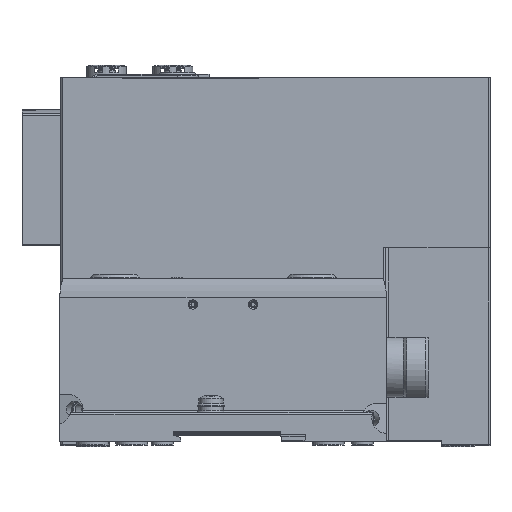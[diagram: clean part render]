
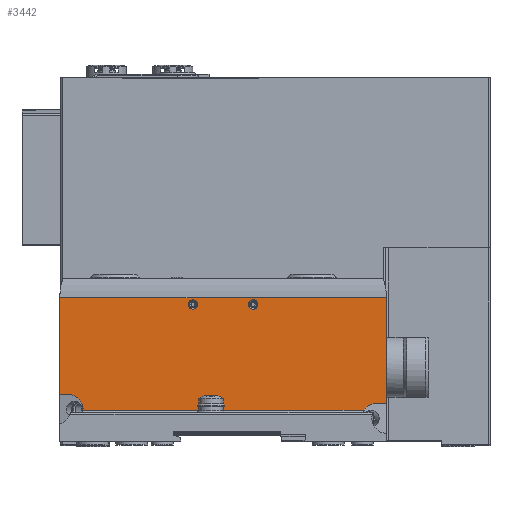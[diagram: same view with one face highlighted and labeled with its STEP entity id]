
A CAD part, top view. The second image highlights one B-rep face of the part: STEP entity #3442.
In plain terms, the highlighted planar face has unit normal (0, 0, 1) as drawn and (-1, 0, 0) by its records, which use the part's own axes.
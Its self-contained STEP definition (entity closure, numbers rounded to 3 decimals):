
#3442 = ADVANCED_FACE( '', ( #8272, #8273, #8274 ), #8275, .F. );
#8272 = FACE_BOUND( '', #15001, .T. );
#8273 = FACE_BOUND( '', #15002, .T. );
#8274 = FACE_OUTER_BOUND( '', #15003, .T. );
#8275 = PLANE( '', #15004 );
#15001 = EDGE_LOOP( '', ( #24756 ) );
#15002 = EDGE_LOOP( '', ( #24757 ) );
#15003 = EDGE_LOOP( '', ( #24758, #24759, #24760, #24761, #24762, #24763, #24764, #24765 ) );
#15004 = AXIS2_PLACEMENT_3D( '', #24766, #24767, #24768 );
#24756 = ORIENTED_EDGE( '', *, *, #39323, .T. );
#24757 = ORIENTED_EDGE( '', *, *, #39324, .T. );
#24758 = ORIENTED_EDGE( '', *, *, #37333, .T. );
#24759 = ORIENTED_EDGE( '', *, *, #39325, .T. );
#24760 = ORIENTED_EDGE( '', *, *, #36840, .F. );
#24761 = ORIENTED_EDGE( '', *, *, #39326, .F. );
#24762 = ORIENTED_EDGE( '', *, *, #39327, .F. );
#24763 = ORIENTED_EDGE( '', *, *, #39328, .T. );
#24764 = ORIENTED_EDGE( '', *, *, #39329, .F. );
#24765 = ORIENTED_EDGE( '', *, *, #39046, .T. );
#24766 = CARTESIAN_POINT( '', ( -15.4, 48.7, 54.05 ) );
#24767 = DIRECTION( '', ( 1., 0., 0. ) );
#24768 = DIRECTION( '', ( 0., 0., -1. ) );
#36840 = EDGE_CURVE( '', #43379, #43380, #43381, .F. );
#37333 = EDGE_CURVE( '', #44258, #44256, #44259, .T. );
#39046 = EDGE_CURVE( '', #47147, #44258, #47154, .T. );
#39323 = EDGE_CURVE( '', #47582, #47582, #47583, .T. );
#39324 = EDGE_CURVE( '', #47584, #47584, #47585, .T. );
#39325 = EDGE_CURVE( '', #44256, #43380, #47586, .T. );
#39326 = EDGE_CURVE( '', #47587, #43379, #47588, .T. );
#39327 = EDGE_CURVE( '', #47589, #47587, #47590, .F. );
#39328 = EDGE_CURVE( '', #47589, #47591, #47592, .T. );
#39329 = EDGE_CURVE( '', #47147, #47591, #47593, .T. );
#43379 = VERTEX_POINT( '', #52914 );
#43380 = VERTEX_POINT( '', #52915 );
#43381 = ELLIPSE( '', #52916, 5.176, 5. );
#44256 = VERTEX_POINT( '', #54186 );
#44258 = VERTEX_POINT( '', #54189 );
#44259 = LINE( '', #54190, #54191 );
#47147 = VERTEX_POINT( '', #58223 );
#47154 = LINE( '', #58245, #58246 );
#47582 = VERTEX_POINT( '', #58864 );
#47583 = CIRCLE( '', #58865, 1.55 );
#47584 = VERTEX_POINT( '', #58866 );
#47585 = CIRCLE( '', #58867, 1.55 );
#47586 = LINE( '', #58868, #58869 );
#47587 = VERTEX_POINT( '', #58870 );
#47588 = LINE( '', #58871, #58872 );
#47589 = VERTEX_POINT( '', #58873 );
#47590 = ELLIPSE( '', #58874, 5.132, 5. );
#47591 = VERTEX_POINT( '', #58875 );
#47592 = LINE( '', #58876, #58877 );
#47593 = LINE( '', #58878, #58879 );
#52914 = CARTESIAN_POINT( '', ( -15.4, 11.6, -46.319 ) );
#52915 = CARTESIAN_POINT( '', ( -15.4, 16.8, -51.491 ) );
#52916 = AXIS2_PLACEMENT_3D( '', #65830, #65831, #65832 );
#54186 = CARTESIAN_POINT( '', ( -15.4, 16.8, -54.05 ) );
#54189 = CARTESIAN_POINT( '', ( -15.4, 48.7, -54.05 ) );
#54190 = CARTESIAN_POINT( '', ( -15.4, 48.7, -54.05 ) );
#54191 = VECTOR( '', #66510, 1000. );
#58223 = CARTESIAN_POINT( '', ( -15.4, 48.7, 54.05 ) );
#58245 = CARTESIAN_POINT( '', ( -15.4, 48.7, 54.05 ) );
#58246 = VECTOR( '', #68931, 1000. );
#58864 = CARTESIAN_POINT( '', ( -15.4, 46.55, -11.55 ) );
#58865 = AXIS2_PLACEMENT_3D( '', #69290, #69291, #69292 );
#58866 = CARTESIAN_POINT( '', ( -15.4, 46.55, 8.45 ) );
#58867 = AXIS2_PLACEMENT_3D( '', #69293, #69294, #69295 );
#58868 = CARTESIAN_POINT( '', ( -15.4, 16.8, 54.05 ) );
#58869 = VECTOR( '', #69296, 1000. );
#58870 = CARTESIAN_POINT( '', ( -15.4, 11.6, 46.669 ) );
#58871 = CARTESIAN_POINT( '', ( -15.4, 11.6, 54.05 ) );
#58872 = VECTOR( '', #69297, 1000. );
#58873 = CARTESIAN_POINT( '', ( -15.4, 13.8, 50.92 ) );
#58874 = AXIS2_PLACEMENT_3D( '', #69298, #69299, #69300 );
#58875 = CARTESIAN_POINT( '', ( -15.4, 13.8, 54.05 ) );
#58876 = CARTESIAN_POINT( '', ( -15.4, 13.8, 54.05 ) );
#58877 = VECTOR( '', #69301, 1000. );
#58878 = CARTESIAN_POINT( '', ( -15.4, 48.7, 54.05 ) );
#58879 = VECTOR( '', #69302, 1000. );
#65830 = CARTESIAN_POINT( '', ( -15.4, 11.8, -51.491 ) );
#65831 = DIRECTION( '', ( 1., 0., 0. ) );
#65832 = DIRECTION( '', ( 0., 0., 1. ) );
#66510 = DIRECTION( '', ( 0., -1., 0. ) );
#68931 = DIRECTION( '', ( 0., 0., -1. ) );
#69290 = CARTESIAN_POINT( '', ( -15.4, 46.55, -10. ) );
#69291 = DIRECTION( '', ( 1., 0., 0. ) );
#69292 = DIRECTION( '', ( 0., 0., -1. ) );
#69293 = CARTESIAN_POINT( '', ( -15.4, 46.55, 10. ) );
#69294 = DIRECTION( '', ( 1., 0., 0. ) );
#69295 = DIRECTION( '', ( 0., 0., -1. ) );
#69296 = DIRECTION( '', ( 0., 0., 1. ) );
#69297 = DIRECTION( '', ( 0., 0., -1. ) );
#69298 = CARTESIAN_POINT( '', ( -15.4, 8.8, 50.92 ) );
#69299 = DIRECTION( '', ( 1., 0., 0. ) );
#69300 = DIRECTION( '', ( 0., 0., -1. ) );
#69301 = DIRECTION( '', ( 0., 0., 1. ) );
#69302 = DIRECTION( '', ( 0., -1., 0. ) );
